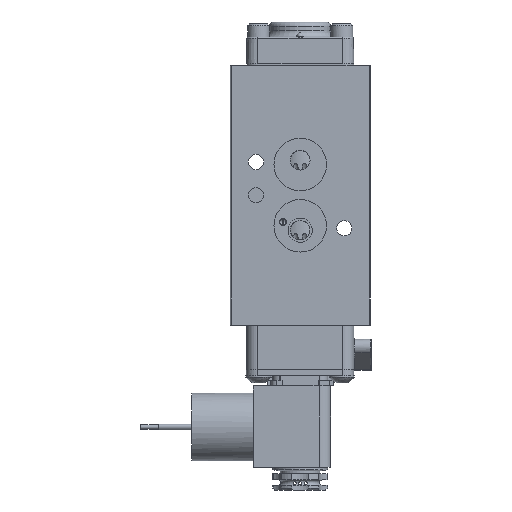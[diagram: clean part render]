
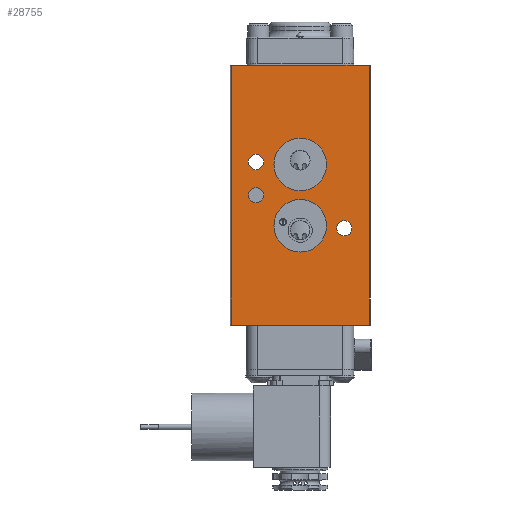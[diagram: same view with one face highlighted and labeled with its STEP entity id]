
A CAD part, front view. The second image highlights one B-rep face of the part: STEP entity #28755.
In plain terms, the highlighted planar face has unit normal (0, -1, 0).
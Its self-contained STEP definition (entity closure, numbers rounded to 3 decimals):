
#1217=FACE_BOUND('',#5092,.T.);
#1218=FACE_BOUND('',#5093,.T.);
#1219=FACE_BOUND('',#5094,.T.);
#1220=FACE_BOUND('',#5095,.T.);
#1221=FACE_BOUND('',#5096,.T.);
#1852=PLANE('',#31605);
#3323=FACE_OUTER_BOUND('',#5091,.T.);
#5091=EDGE_LOOP('',(#24299,#24300,#24301,#24302));
#5092=EDGE_LOOP('',(#24303));
#5093=EDGE_LOOP('',(#24304));
#5094=EDGE_LOOP('',(#24305));
#5095=EDGE_LOOP('',(#24306));
#5096=EDGE_LOOP('',(#24307));
#6626=CIRCLE('',#31566,0.953);
#6628=CIRCLE('',#31570,0.953);
#6631=CIRCLE('',#31576,0.276);
#6632=CIRCLE('',#31578,0.278);
#6633=CIRCLE('',#31580,0.278);
#8310=LINE('',#49568,#10296);
#8586=LINE('',#51462,#10572);
#8628=LINE('',#52154,#10614);
#8631=LINE('',#52160,#10617);
#10296=VECTOR('',#37956,1.);
#10572=VECTOR('',#38664,1.);
#10614=VECTOR('',#38922,1.);
#10617=VECTOR('',#38931,1.);
#12650=VERTEX_POINT('',#49564);
#12652=VERTEX_POINT('',#49567);
#12963=VERTEX_POINT('',#51454);
#12965=VERTEX_POINT('',#51460);
#13016=VERTEX_POINT('',#52087);
#13018=VERTEX_POINT('',#52094);
#13022=VERTEX_POINT('',#52106);
#13023=VERTEX_POINT('',#52110);
#13024=VERTEX_POINT('',#52114);
#16262=EDGE_CURVE('',#12652,#12650,#8310,.T.);
#16727=EDGE_CURVE('',#12963,#12965,#8586,.T.);
#16816=EDGE_CURVE('',#13016,#13016,#6626,.T.);
#16819=EDGE_CURVE('',#13018,#13018,#6628,.T.);
#16824=EDGE_CURVE('',#13022,#13022,#6631,.T.);
#16827=EDGE_CURVE('',#13023,#13023,#6632,.T.);
#16829=EDGE_CURVE('',#13024,#13024,#6633,.T.);
#16848=EDGE_CURVE('',#12963,#12650,#8628,.T.);
#16851=EDGE_CURVE('',#12652,#12965,#8631,.T.);
#24299=ORIENTED_EDGE('',*,*,#16848,.F.);
#24300=ORIENTED_EDGE('',*,*,#16727,.T.);
#24301=ORIENTED_EDGE('',*,*,#16851,.F.);
#24302=ORIENTED_EDGE('',*,*,#16262,.T.);
#24303=ORIENTED_EDGE('',*,*,#16816,.T.);
#24304=ORIENTED_EDGE('',*,*,#16819,.T.);
#24305=ORIENTED_EDGE('',*,*,#16824,.T.);
#24306=ORIENTED_EDGE('',*,*,#16827,.T.);
#24307=ORIENTED_EDGE('',*,*,#16829,.T.);
#28755=ADVANCED_FACE('',(#3323,#1217,#1218,#1219,#1220,#1221),#1852,.T.);
#31566=AXIS2_PLACEMENT_3D('',#52088,#38837,#38838);
#31570=AXIS2_PLACEMENT_3D('',#52095,#38846,#38847);
#31576=AXIS2_PLACEMENT_3D('',#52107,#38860,#38861);
#31578=AXIS2_PLACEMENT_3D('',#52112,#38866,#38867);
#31580=AXIS2_PLACEMENT_3D('',#52116,#38871,#38872);
#31605=AXIS2_PLACEMENT_3D('',#52163,#38936,#38937);
#37956=DIRECTION('',(-1.,0.,0.));
#38664=DIRECTION('',(1.,0.,0.));
#38837=DIRECTION('center_axis',(0.,1.,0.));
#38838=DIRECTION('ref_axis',(-1.,0.,0.));
#38846=DIRECTION('center_axis',(0.,1.,0.));
#38847=DIRECTION('ref_axis',(-1.,0.,0.));
#38860=DIRECTION('center_axis',(0.,1.,0.));
#38861=DIRECTION('ref_axis',(1.,0.,0.));
#38866=DIRECTION('center_axis',(0.,1.,0.));
#38867=DIRECTION('ref_axis',(1.,0.,0.));
#38871=DIRECTION('center_axis',(0.,1.,0.));
#38872=DIRECTION('ref_axis',(1.,0.,0.));
#38922=DIRECTION('',(0.,0.,1.));
#38931=DIRECTION('',(0.,0.,-1.));
#38936=DIRECTION('center_axis',(0.,-1.,0.));
#38937=DIRECTION('ref_axis',(0.,0.,-1.));
#49564=CARTESIAN_POINT('',(-2.5,-1.636,4.71));
#49567=CARTESIAN_POINT('',(2.5,-1.636,4.71));
#49568=CARTESIAN_POINT('',(-2.54,-1.636,4.71));
#51454=CARTESIAN_POINT('',(-2.5,-1.636,-4.71));
#51460=CARTESIAN_POINT('',(2.5,-1.636,-4.71));
#51462=CARTESIAN_POINT('',(-2.54,-1.636,-4.71));
#52087=CARTESIAN_POINT('',(0.953,-1.636,1.111));
#52088=CARTESIAN_POINT('Origin',(0.,-1.636,1.111));
#52094=CARTESIAN_POINT('',(0.953,-1.636,-1.111));
#52095=CARTESIAN_POINT('Origin',(0.,-1.636,-1.111));
#52106=CARTESIAN_POINT('',(-1.876,-1.636,-0.001));
#52107=CARTESIAN_POINT('Origin',(-1.6,-1.636,-0.001));
#52110=CARTESIAN_POINT('',(1.322,-1.636,-1.2));
#52112=CARTESIAN_POINT('Origin',(1.6,-1.636,-1.2));
#52114=CARTESIAN_POINT('',(-1.878,-1.636,1.2));
#52116=CARTESIAN_POINT('Origin',(-1.6,-1.636,1.2));
#52154=CARTESIAN_POINT('',(-2.5,-1.636,0.));
#52160=CARTESIAN_POINT('',(2.5,-1.636,0.));
#52163=CARTESIAN_POINT('Origin',(2.54,-1.636,0.));
